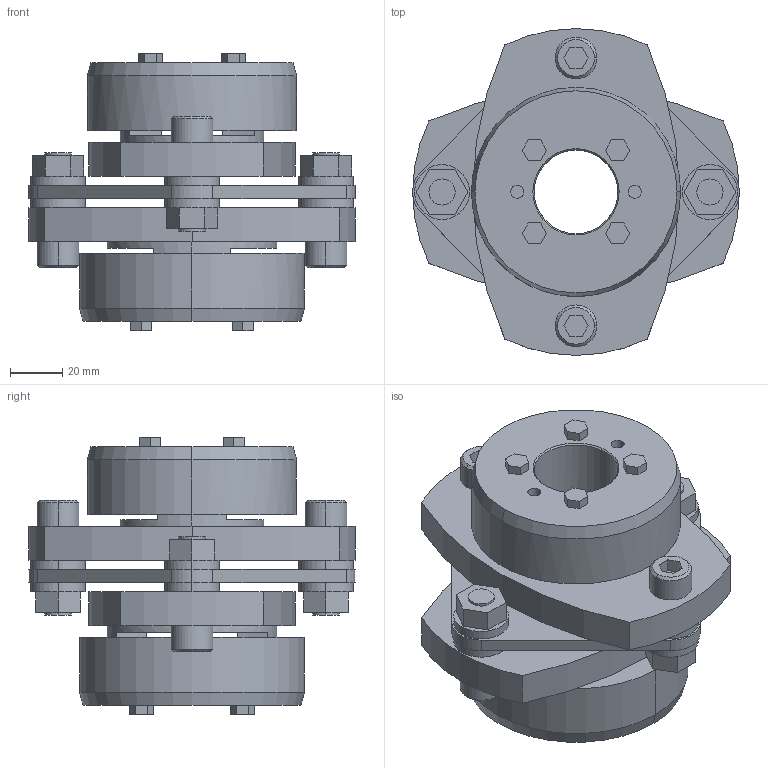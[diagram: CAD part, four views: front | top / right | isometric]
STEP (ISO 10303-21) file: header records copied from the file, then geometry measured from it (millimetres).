
FILE_DESCRIPTION((''),'2;1');
FILE_NAME('LCS-125T7-32×42.stp','2011-09-07T09:51:46',(''),(''),'AutoCAD STEP 2000i','AutoCAD 2000i',', , ');
FILE_SCHEMA(('CONFIG_CONTROL_DESIGN'));
Length unit declared in the file: millimetre
Products named in the file (8): LCS-125T7-32×40; 忣兜1; LC125T7-T040; LC125T7-T038; LC125T7-T035; LC125T7-T032-1; LC125T7-T032; LCS125-ITA
Assembly tree (7 placements, depth 2):
  LCS-125T7-32×40
    忣兜1
    LC125T7-T040
    LC125T7-T038
    LC125T7-T035
    LC125T7-T032-1
    LC125T7-T032
    LCS125-ITA
Bounding box: 125 x 125 x 106 mm (x, y, z)
Volume: 485604.9 mm3; surface area: 98181 mm2
Topology: 1 solids, 1 shells, 246 faces, 606 edges, 398 vertices
Faces by surface type: plane 146, cylinder 80, cone 20
Entity records: 7513 total; most frequent: DIRECTION 1312, CARTESIAN_POINT 1258, ORIENTED_EDGE 1212, EDGE_CURVE 606, AXIS2_PLACEMENT_3D 452, VECTOR 408, LINE 408, VERTEX_POINT 398
